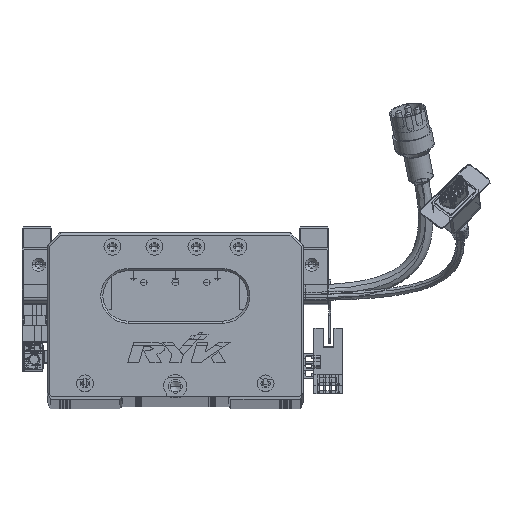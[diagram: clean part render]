
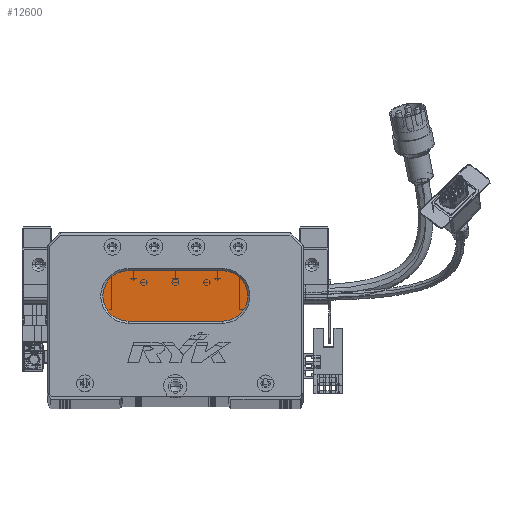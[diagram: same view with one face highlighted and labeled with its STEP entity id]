
A CAD part, top view. The second image highlights one B-rep face of the part: STEP entity #12600.
In plain terms, the highlighted planar face has unit normal (0, 0, 1) as drawn and (0, 0, -1) by its records, which use the part's own axes.
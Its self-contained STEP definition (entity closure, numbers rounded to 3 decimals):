
#2705 = VERTEX_POINT ( 'NONE', #100746 ) ;
#2808 = ORIENTED_EDGE ( 'NONE', *, *, #125159, .T. ) ;
#12600 = ADVANCED_FACE ( 'NONE', ( #17655 ), #44428, .T. ) ;
#12691 = ORIENTED_EDGE ( 'NONE', *, *, #28270, .T. ) ;
#13189 = CARTESIAN_POINT ( 'NONE',  ( 38.5, 48., 13. ) ) ;
#14305 = CARTESIAN_POINT ( 'NONE',  ( 38.5, 60., 13. ) ) ;
#16610 = VECTOR ( 'NONE', #18610, 1000. ) ;
#17655 = FACE_OUTER_BOUND ( 'NONE', #89102, .T. ) ;
#18610 = DIRECTION ( 'NONE',  ( 1., 0., 0. ) ) ;
#25255 = VECTOR ( 'NONE', #96410, 1000. ) ;
#26482 = DIRECTION ( 'NONE',  ( -1., 0., 0. ) ) ;
#27141 = ORIENTED_EDGE ( 'NONE', *, *, #79485, .T. ) ;
#28270 = EDGE_CURVE ( 'NONE', #117532, #2705, #100097, .T. ) ;
#28321 = DIRECTION ( 'NONE',  ( -1., 0., 0. ) ) ;
#29336 = CARTESIAN_POINT ( 'NONE',  ( 83.5, 36., 13. ) ) ;
#41263 = CARTESIAN_POINT ( 'NONE',  ( 38.5, 36., 13. ) ) ;
#41592 = EDGE_CURVE ( 'NONE', #2705, #91066, #90421, .T. ) ;
#44428 = PLANE ( 'NONE',  #98629 ) ;
#47928 = DIRECTION ( 'NONE',  ( 0., 0., -1. ) ) ;
#52663 = LINE ( 'NONE', #29336, #25255 ) ;
#55171 = CARTESIAN_POINT ( 'NONE',  ( 83.5, 48., 13. ) ) ;
#55611 = CIRCLE ( 'NONE', #104119, 12. ) ;
#59574 = EDGE_CURVE ( 'NONE', #107922, #117532, #52663, .T. ) ;
#61812 = DIRECTION ( 'NONE',  ( -1., 0., 0. ) ) ;
#64129 = DIRECTION ( 'NONE',  ( 0., 0., -1. ) ) ;
#64473 = DIRECTION ( 'NONE',  ( 0., 0., -1. ) ) ;
#66433 = CARTESIAN_POINT ( 'NONE',  ( 83.5, 60., 13. ) ) ;
#71451 = ORIENTED_EDGE ( 'NONE', *, *, #41592, .T. ) ;
#79419 = AXIS2_PLACEMENT_3D ( 'NONE', #97062, #47928, #28321 ) ;
#79485 = EDGE_CURVE ( 'NONE', #89348, #107922, #55611, .T. ) ;
#83789 = DIRECTION ( 'NONE',  ( -1., 0., 0. ) ) ;
#87964 = CARTESIAN_POINT ( 'NONE',  ( 83.5, 36., 13. ) ) ;
#89102 = EDGE_LOOP ( 'NONE', ( #27141, #110327, #12691, #71451, #2808 ) ) ;
#89348 = VERTEX_POINT ( 'NONE', #125785 ) ;
#90421 = CIRCLE ( 'NONE', #112070, 12. ) ;
#91066 = VERTEX_POINT ( 'NONE', #14305 ) ;
#93127 = CARTESIAN_POINT ( 'NONE',  ( 83.5, 48., 13. ) ) ;
#96410 = DIRECTION ( 'NONE',  ( -1., 0., 0. ) ) ;
#97062 = CARTESIAN_POINT ( 'NONE',  ( 38.5, 48., 13. ) ) ;
#98629 = AXIS2_PLACEMENT_3D ( 'NONE', #93127, #64473, #26482 ) ;
#100097 = CIRCLE ( 'NONE', #79419, 12. ) ;
#100746 = CARTESIAN_POINT ( 'NONE',  ( 26.5, 48., 13. ) ) ;
#104119 = AXIS2_PLACEMENT_3D ( 'NONE', #55171, #64129, #83789 ) ;
#106815 = LINE ( 'NONE', #66433, #16610 ) ;
#107922 = VERTEX_POINT ( 'NONE', #87964 ) ;
#110327 = ORIENTED_EDGE ( 'NONE', *, *, #59574, .T. ) ;
#112070 = AXIS2_PLACEMENT_3D ( 'NONE', #13189, #120361, #61812 ) ;
#117532 = VERTEX_POINT ( 'NONE', #41263 ) ;
#120361 = DIRECTION ( 'NONE',  ( 0., 0., -1. ) ) ;
#125159 = EDGE_CURVE ( 'NONE', #91066, #89348, #106815, .T. ) ;
#125785 = CARTESIAN_POINT ( 'NONE',  ( 83.5, 60., 13. ) ) ;
